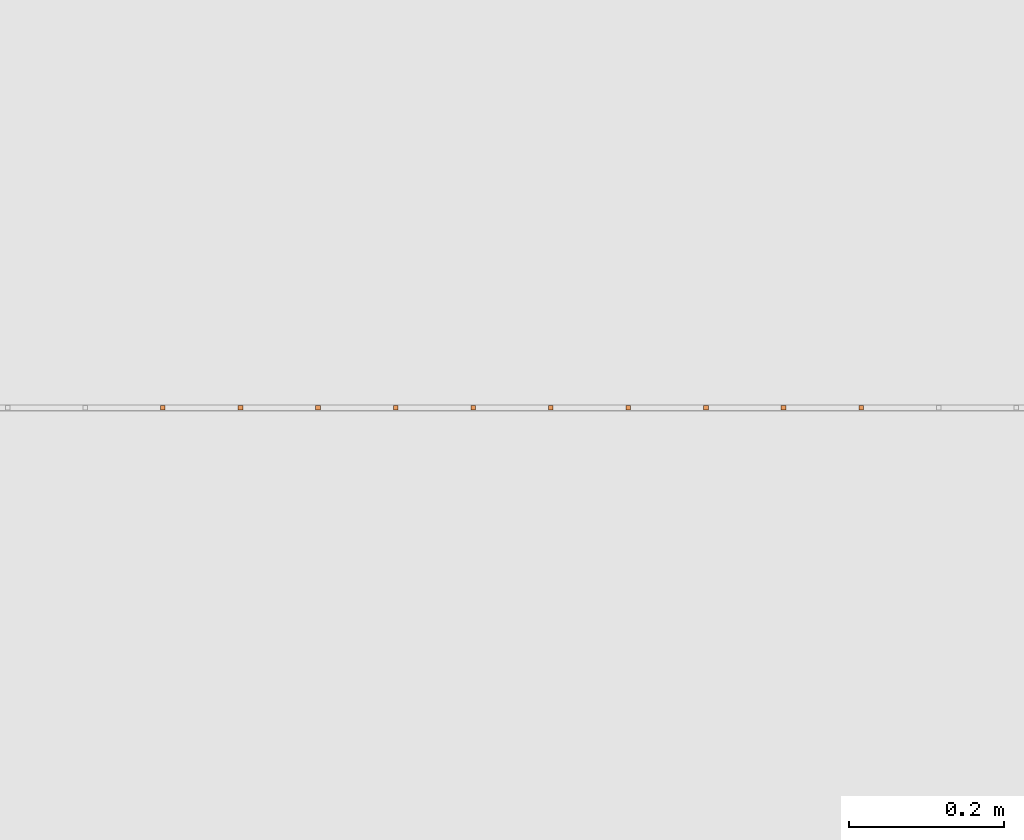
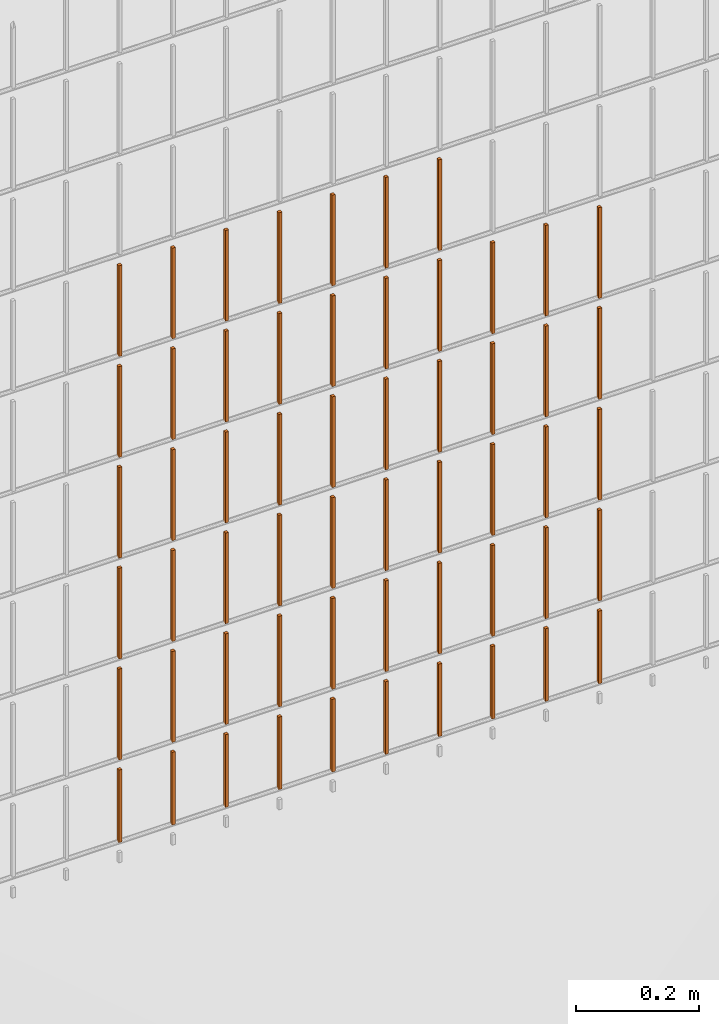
# One storey, part 249 of 1809: 57 proxies, 1 element without a shape of its own.
"""IFC2X3 building model written with IfcOpenShell, lengths in millimetres."""

from ifc_helpers import new_model, entity, si_unit, converted_unit, derived_unit, money_unit, direction, frame, origin_with_axes, place, context, subcontext, project, spatial, faceted_brep, source, transform, mapped, material, type_object, element, aggregate, save


model = new_model("IFC2X3")

# Units and contexts
model_context = context("Model", 3, precision=0.01, world=origin_with_axes(), true_north=direction((0.0, 1.0)))
body_context = subcontext(model_context, "Body", "Model", "MODEL_VIEW")
ifc_project = project(units=[si_unit("LENGTHUNIT", "METRE", prefix="MILLI"), si_unit("AREAUNIT", "SQUARE_METRE"), si_unit("VOLUMEUNIT", "CUBIC_METRE"), converted_unit("PLANEANGLEUNIT", "DEGREE", entity("IfcPlaneAngleMeasure", 0.0174532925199), si_unit("PLANEANGLEUNIT", "RADIAN"), dimensions=[0, 0, 0, 0, 0, 0, 0]), si_unit("SOLIDANGLEUNIT", "STERADIAN"), money_unit("EUR"), converted_unit("TIMEUNIT", "Year", entity("IfcTimeMeasure", 31556926.0), si_unit("TIMEUNIT", "SECOND"), dimensions=[0, 0, 1, 0, 0, 0, 0]), si_unit("MASSUNIT", "GRAM", prefix="KILO"), si_unit("THERMODYNAMICTEMPERATUREUNIT", "DEGREE_CELSIUS"), si_unit("LUMINOUSINTENSITYUNIT", "LUMEN"), si_unit("ENERGYUNIT", "JOULE", prefix="MEGA"), derived_unit("THERMALCONDUCTANCEUNIT", [(si_unit("POWERUNIT", "WATT"), 1), (si_unit("LENGTHUNIT", "METRE"), -1), (si_unit("THERMODYNAMICTEMPERATUREUNIT", "KELVIN"), -1)]), derived_unit("SPECIFICHEATCAPACITYUNIT", [(si_unit("ENERGYUNIT", "JOULE"), 1), (si_unit("MASSUNIT", "GRAM", prefix="KILO"), -1), (si_unit("THERMODYNAMICTEMPERATUREUNIT", "KELVIN"), -1)]), derived_unit("MASSDENSITYUNIT", [(si_unit("MASSUNIT", "GRAM", prefix="KILO"), 1), (si_unit("VOLUMEUNIT", "CUBIC_METRE"), -1)])], contexts=[model_context])

# Site, building, storey
site_placement = place(None, origin_with_axes())
site = spatial("IfcSite", under=ifc_project, at=site_placement, Name="Politse- ja Piirivalveameti ning Päästeameti ühishoone", CompositionType="ELEMENT")
building_placement = place(site_placement, origin_with_axes())
building = spatial("IfcBuilding", under=site, at=building_placement, Name="Politse- ja Piirivalveameti ning Päästeameti ühishoone", CompositionType="ELEMENT")
storey_placement = place(building_placement, origin_with_axes())
storey = spatial("IfcBuildingStorey", under=building, at=storey_placement, Name="Esimene korrus", CompositionType="ELEMENT", Elevation=0.0)

# Proxies
building_element_proxy_type_1 = type_object("IfcBuildingElementProxyType", Name="Railing Type", PredefinedType="NOTDEFINED")
proxy_1_placement = place(storey_placement, frame((-16775.8601056, 25156.7555964, 0.0), z_axis=(0.0, 0.0, 1.0), x_axis=(1.0, 0.0, 0.0)))
proxy_1 = element("IfcBuildingElementProxy", 1, at=proxy_1_placement, inside=storey, type_object=building_element_proxy_type_1, Name="KENNELI PIIRE")
ifc_material = material(Name="Teras - Konstruktsioon")
building_element_proxy_type_2 = type_object("IfcBuildingElementProxyType", Name="IfcBuildingElementProxy", PredefinedType="NOTDEFINED")
shared_shape_1 = source(origin_with_axes(), body_context, "Body", "Brep", [
    faceted_brep([(3.0, 3.0, 0.0), (-3.0, 3.0, 0.0), (-3.0, 3.0, 180.000012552), (3.0, 3.0, 180.000012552), (3.0, -3.0, 0.0), (-3.0, -3.0, 0.0), (-3.0, -3.0, 180.000012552), (3.0, -3.0, 180.000012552)], [[[0, 1, 2, 3]], [[0, 4, 5, 1]], [[1, 5, 6, 2]], [[3, 2, 6, 7]], [[4, 0, 3, 7]], [[5, 4, 7, 6]]]),
])
proxy_2_placement = place(proxy_1_placement, frame((-2082.26655065, -16068.8402798, 403.999987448), z_axis=(0.0, 0.0, 1.0), x_axis=(1.0, 0.0, 0.0)))
proxy_2 = element("IfcBuildingElementProxy", 2, at=proxy_2_placement, type_object=building_element_proxy_type_2, material=ifc_material, Name="BALUSTER - 001", context=body_context, shape_type="MappedRepresentation", body=[
    mapped(shared_shape_1, transform((0.0, 0.0, 0.0), x_axis=(0.0, -1.0, 0.0), y_axis=(1.0, 0.0, 0.0), z_axis=(0.0, 0.0, 1.0))),
])
proxy_3_placement = place(proxy_1_placement, frame((-1982.26655065, -16068.8402798, 403.999987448), z_axis=(0.0, 0.0, 1.0), x_axis=(1.0, 0.0, 0.0)))
proxy_3 = element("IfcBuildingElementProxy", 3, at=proxy_3_placement, type_object=building_element_proxy_type_2, material=ifc_material, Name="BALUSTER - 001", context=body_context, shape_type="MappedRepresentation", body=[
    mapped(shared_shape_1, transform((0.0, 0.0, 0.0), x_axis=(0.0, -1.0, 0.0), y_axis=(1.0, 0.0, 0.0), z_axis=(0.0, 0.0, 1.0))),
])
proxy_4_placement = place(proxy_1_placement, frame((-1882.26655065, -16068.8402798, 403.999987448), z_axis=(0.0, 0.0, 1.0), x_axis=(1.0, 0.0, 0.0)))
proxy_4 = element("IfcBuildingElementProxy", 4, at=proxy_4_placement, type_object=building_element_proxy_type_2, material=ifc_material, Name="BALUSTER - 001", context=body_context, shape_type="MappedRepresentation", body=[
    mapped(shared_shape_1, transform((0.0, 0.0, 0.0), x_axis=(0.0, -1.0, 0.0), y_axis=(1.0, 0.0, 0.0), z_axis=(0.0, 0.0, 1.0))),
])
proxy_5_placement = place(proxy_1_placement, frame((-1782.26655065, -16068.8402798, 403.999987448), z_axis=(0.0, 0.0, 1.0), x_axis=(1.0, 0.0, 0.0)))
proxy_5 = element("IfcBuildingElementProxy", 5, at=proxy_5_placement, type_object=building_element_proxy_type_2, material=ifc_material, Name="BALUSTER - 001", context=body_context, shape_type="MappedRepresentation", body=[
    mapped(shared_shape_1, transform((0.0, 0.0, 0.0), x_axis=(0.0, -1.0, 0.0), y_axis=(1.0, 0.0, 0.0), z_axis=(0.0, 0.0, 1.0))),
])
proxy_6_placement = place(proxy_1_placement, frame((-1682.26655065, -16068.8402798, 403.999987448), z_axis=(0.0, 0.0, 1.0), x_axis=(1.0, 0.0, 0.0)))
proxy_6 = element("IfcBuildingElementProxy", 6, at=proxy_6_placement, type_object=building_element_proxy_type_2, material=ifc_material, Name="BALUSTER - 001", context=body_context, shape_type="MappedRepresentation", body=[
    mapped(shared_shape_1, transform((0.0, 0.0, 0.0), x_axis=(0.0, -1.0, 0.0), y_axis=(1.0, 0.0, 0.0), z_axis=(0.0, 0.0, 1.0))),
])
proxy_7_placement = place(proxy_1_placement, frame((-1582.26655065, -16068.8402798, 403.999987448), z_axis=(0.0, 0.0, 1.0), x_axis=(1.0, 0.0, 0.0)))
proxy_7 = element("IfcBuildingElementProxy", 7, at=proxy_7_placement, type_object=building_element_proxy_type_2, material=ifc_material, Name="BALUSTER - 001", context=body_context, shape_type="MappedRepresentation", body=[
    mapped(shared_shape_1, transform((0.0, 0.0, 0.0), x_axis=(0.0, -1.0, 0.0), y_axis=(1.0, 0.0, 0.0), z_axis=(0.0, 0.0, 1.0))),
])
proxy_8_placement = place(proxy_1_placement, frame((-1482.26655065, -16068.8402798, 403.999987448), z_axis=(0.0, 0.0, 1.0), x_axis=(1.0, 0.0, 0.0)))
proxy_8 = element("IfcBuildingElementProxy", 8, at=proxy_8_placement, type_object=building_element_proxy_type_2, material=ifc_material, Name="BALUSTER - 001", context=body_context, shape_type="MappedRepresentation", body=[
    mapped(shared_shape_1, transform((0.0, 0.0, 0.0), x_axis=(0.0, -1.0, 0.0), y_axis=(1.0, 0.0, 0.0), z_axis=(0.0, 0.0, 1.0))),
])
proxy_9_placement = place(proxy_1_placement, frame((-1382.26655065, -16068.8402798, 403.999987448), z_axis=(0.0, 0.0, 1.0), x_axis=(1.0, 0.0, 0.0)))
proxy_9 = element("IfcBuildingElementProxy", 9, at=proxy_9_placement, type_object=building_element_proxy_type_2, material=ifc_material, Name="BALUSTER - 001", context=body_context, shape_type="MappedRepresentation", body=[
    mapped(shared_shape_1, transform((0.0, 0.0, 0.0), x_axis=(0.0, -1.0, 0.0), y_axis=(1.0, 0.0, 0.0), z_axis=(0.0, 0.0, 1.0))),
])
proxy_10_placement = place(proxy_1_placement, frame((-1282.26655065, -16068.8402798, 403.999987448), z_axis=(0.0, 0.0, 1.0), x_axis=(1.0, 0.0, 0.0)))
proxy_10 = element("IfcBuildingElementProxy", 10, at=proxy_10_placement, type_object=building_element_proxy_type_2, material=ifc_material, Name="BALUSTER - 001", context=body_context, shape_type="MappedRepresentation", body=[
    mapped(shared_shape_1, transform((0.0, 0.0, 0.0), x_axis=(0.0, -1.0, 0.0), y_axis=(1.0, 0.0, 0.0), z_axis=(0.0, 0.0, 1.0))),
])
proxy_11_placement = place(proxy_1_placement, frame((-1182.26655065, -16068.8402798, 403.999987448), z_axis=(0.0, 0.0, 1.0), x_axis=(1.0, 0.0, 0.0)))
proxy_11 = element("IfcBuildingElementProxy", 11, at=proxy_11_placement, type_object=building_element_proxy_type_2, material=ifc_material, Name="BALUSTER - 001", context=body_context, shape_type="MappedRepresentation", body=[
    mapped(shared_shape_1, transform((0.0, 0.0, 0.0), x_axis=(0.0, -1.0, 0.0), y_axis=(1.0, 0.0, 0.0), z_axis=(0.0, 0.0, 1.0))),
])
proxy_12_placement = place(proxy_1_placement, frame((-2082.26655065, -16068.8402798, 803.999987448), z_axis=(0.0, 0.0, 1.0), x_axis=(1.0, 0.0, 0.0)))
proxy_12 = element("IfcBuildingElementProxy", 12, at=proxy_12_placement, type_object=building_element_proxy_type_2, material=ifc_material, Name="BALUSTER - 001", context=body_context, shape_type="MappedRepresentation", body=[
    mapped(shared_shape_1, transform((0.0, 0.0, 0.0), x_axis=(0.0, -1.0, 0.0), y_axis=(1.0, 0.0, 0.0), z_axis=(0.0, 0.0, 1.0))),
])
proxy_13_placement = place(proxy_1_placement, frame((-1982.26655065, -16068.8402798, 803.999987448), z_axis=(0.0, 0.0, 1.0), x_axis=(1.0, 0.0, 0.0)))
proxy_13 = element("IfcBuildingElementProxy", 13, at=proxy_13_placement, type_object=building_element_proxy_type_2, material=ifc_material, Name="BALUSTER - 001", context=body_context, shape_type="MappedRepresentation", body=[
    mapped(shared_shape_1, transform((0.0, 0.0, 0.0), x_axis=(0.0, -1.0, 0.0), y_axis=(1.0, 0.0, 0.0), z_axis=(0.0, 0.0, 1.0))),
])
proxy_14_placement = place(proxy_1_placement, frame((-1882.26655065, -16068.8402798, 803.999987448), z_axis=(0.0, 0.0, 1.0), x_axis=(1.0, 0.0, 0.0)))
proxy_14 = element("IfcBuildingElementProxy", 14, at=proxy_14_placement, type_object=building_element_proxy_type_2, material=ifc_material, Name="BALUSTER - 001", context=body_context, shape_type="MappedRepresentation", body=[
    mapped(shared_shape_1, transform((0.0, 0.0, 0.0), x_axis=(0.0, -1.0, 0.0), y_axis=(1.0, 0.0, 0.0), z_axis=(0.0, 0.0, 1.0))),
])
proxy_15_placement = place(proxy_1_placement, frame((-1782.26655065, -16068.8402798, 803.999987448), z_axis=(0.0, 0.0, 1.0), x_axis=(1.0, 0.0, 0.0)))
proxy_15 = element("IfcBuildingElementProxy", 15, at=proxy_15_placement, type_object=building_element_proxy_type_2, material=ifc_material, Name="BALUSTER - 001", context=body_context, shape_type="MappedRepresentation", body=[
    mapped(shared_shape_1, transform((0.0, 0.0, 0.0), x_axis=(0.0, -1.0, 0.0), y_axis=(1.0, 0.0, 0.0), z_axis=(0.0, 0.0, 1.0))),
])
proxy_16_placement = place(proxy_1_placement, frame((-1682.26655065, -16068.8402798, 803.999987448), z_axis=(0.0, 0.0, 1.0), x_axis=(1.0, 0.0, 0.0)))
proxy_16 = element("IfcBuildingElementProxy", 16, at=proxy_16_placement, type_object=building_element_proxy_type_2, material=ifc_material, Name="BALUSTER - 001", context=body_context, shape_type="MappedRepresentation", body=[
    mapped(shared_shape_1, transform((0.0, 0.0, 0.0), x_axis=(0.0, -1.0, 0.0), y_axis=(1.0, 0.0, 0.0), z_axis=(0.0, 0.0, 1.0))),
])
proxy_17_placement = place(proxy_1_placement, frame((-1582.26655065, -16068.8402798, 803.999987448), z_axis=(0.0, 0.0, 1.0), x_axis=(1.0, 0.0, 0.0)))
proxy_17 = element("IfcBuildingElementProxy", 17, at=proxy_17_placement, type_object=building_element_proxy_type_2, material=ifc_material, Name="BALUSTER - 001", context=body_context, shape_type="MappedRepresentation", body=[
    mapped(shared_shape_1, transform((0.0, 0.0, 0.0), x_axis=(0.0, -1.0, 0.0), y_axis=(1.0, 0.0, 0.0), z_axis=(0.0, 0.0, 1.0))),
])
proxy_18_placement = place(proxy_1_placement, frame((-1482.26655065, -16068.8402798, 803.999987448), z_axis=(0.0, 0.0, 1.0), x_axis=(1.0, 0.0, 0.0)))
proxy_18 = element("IfcBuildingElementProxy", 18, at=proxy_18_placement, type_object=building_element_proxy_type_2, material=ifc_material, Name="BALUSTER - 001", context=body_context, shape_type="MappedRepresentation", body=[
    mapped(shared_shape_1, transform((0.0, 0.0, 0.0), x_axis=(0.0, -1.0, 0.0), y_axis=(1.0, 0.0, 0.0), z_axis=(0.0, 0.0, 1.0))),
])
proxy_19_placement = place(proxy_1_placement, frame((-1382.26655065, -16068.8402798, 803.999987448), z_axis=(0.0, 0.0, 1.0), x_axis=(1.0, 0.0, 0.0)))
proxy_19 = element("IfcBuildingElementProxy", 19, at=proxy_19_placement, type_object=building_element_proxy_type_2, material=ifc_material, Name="BALUSTER - 001", context=body_context, shape_type="MappedRepresentation", body=[
    mapped(shared_shape_1, transform((0.0, 0.0, 0.0), x_axis=(0.0, -1.0, 0.0), y_axis=(1.0, 0.0, 0.0), z_axis=(0.0, 0.0, 1.0))),
])
proxy_20_placement = place(proxy_1_placement, frame((-1282.26655065, -16068.8402798, 803.999987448), z_axis=(0.0, 0.0, 1.0), x_axis=(1.0, 0.0, 0.0)))
proxy_20 = element("IfcBuildingElementProxy", 20, at=proxy_20_placement, type_object=building_element_proxy_type_2, material=ifc_material, Name="BALUSTER - 001", context=body_context, shape_type="MappedRepresentation", body=[
    mapped(shared_shape_1, transform((0.0, 0.0, 0.0), x_axis=(0.0, -1.0, 0.0), y_axis=(1.0, 0.0, 0.0), z_axis=(0.0, 0.0, 1.0))),
])
proxy_21_placement = place(proxy_1_placement, frame((-1182.26655065, -16068.8402798, 803.999987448), z_axis=(0.0, 0.0, 1.0), x_axis=(1.0, 0.0, 0.0)))
proxy_21 = element("IfcBuildingElementProxy", 21, at=proxy_21_placement, type_object=building_element_proxy_type_2, material=ifc_material, Name="BALUSTER - 001", context=body_context, shape_type="MappedRepresentation", body=[
    mapped(shared_shape_1, transform((0.0, 0.0, 0.0), x_axis=(0.0, -1.0, 0.0), y_axis=(1.0, 0.0, 0.0), z_axis=(0.0, 0.0, 1.0))),
])
proxy_22_placement = place(proxy_1_placement, frame((-2082.26655065, -16068.8402798, 1003.99998745), z_axis=(0.0, 0.0, 1.0), x_axis=(1.0, 0.0, 0.0)))
proxy_22 = element("IfcBuildingElementProxy", 22, at=proxy_22_placement, type_object=building_element_proxy_type_2, material=ifc_material, Name="BALUSTER - 001", context=body_context, shape_type="MappedRepresentation", body=[
    mapped(shared_shape_1, transform((0.0, 0.0, 0.0), x_axis=(0.0, -1.0, 0.0), y_axis=(1.0, 0.0, 0.0), z_axis=(0.0, 0.0, 1.0))),
])
proxy_23_placement = place(proxy_1_placement, frame((-1982.26655065, -16068.8402798, 1003.99998745), z_axis=(0.0, 0.0, 1.0), x_axis=(1.0, 0.0, 0.0)))
proxy_23 = element("IfcBuildingElementProxy", 23, at=proxy_23_placement, type_object=building_element_proxy_type_2, material=ifc_material, Name="BALUSTER - 001", context=body_context, shape_type="MappedRepresentation", body=[
    mapped(shared_shape_1, transform((0.0, 0.0, 0.0), x_axis=(0.0, -1.0, 0.0), y_axis=(1.0, 0.0, 0.0), z_axis=(0.0, 0.0, 1.0))),
])
proxy_24_placement = place(proxy_1_placement, frame((-1882.26655065, -16068.8402798, 1003.99998745), z_axis=(0.0, 0.0, 1.0), x_axis=(1.0, 0.0, 0.0)))
proxy_24 = element("IfcBuildingElementProxy", 24, at=proxy_24_placement, type_object=building_element_proxy_type_2, material=ifc_material, Name="BALUSTER - 001", context=body_context, shape_type="MappedRepresentation", body=[
    mapped(shared_shape_1, transform((0.0, 0.0, 0.0), x_axis=(0.0, -1.0, 0.0), y_axis=(1.0, 0.0, 0.0), z_axis=(0.0, 0.0, 1.0))),
])
proxy_25_placement = place(proxy_1_placement, frame((-1782.26655065, -16068.8402798, 1003.99998745), z_axis=(0.0, 0.0, 1.0), x_axis=(1.0, 0.0, 0.0)))
proxy_25 = element("IfcBuildingElementProxy", 25, at=proxy_25_placement, type_object=building_element_proxy_type_2, material=ifc_material, Name="BALUSTER - 001", context=body_context, shape_type="MappedRepresentation", body=[
    mapped(shared_shape_1, transform((0.0, 0.0, 0.0), x_axis=(0.0, -1.0, 0.0), y_axis=(1.0, 0.0, 0.0), z_axis=(0.0, 0.0, 1.0))),
])
proxy_26_placement = place(proxy_1_placement, frame((-1682.26655065, -16068.8402798, 1003.99998745), z_axis=(0.0, 0.0, 1.0), x_axis=(1.0, 0.0, 0.0)))
proxy_26 = element("IfcBuildingElementProxy", 26, at=proxy_26_placement, type_object=building_element_proxy_type_2, material=ifc_material, Name="BALUSTER - 001", context=body_context, shape_type="MappedRepresentation", body=[
    mapped(shared_shape_1, transform((0.0, 0.0, 0.0), x_axis=(0.0, -1.0, 0.0), y_axis=(1.0, 0.0, 0.0), z_axis=(0.0, 0.0, 1.0))),
])
proxy_27_placement = place(proxy_1_placement, frame((-1582.26655065, -16068.8402798, 1003.99998745), z_axis=(0.0, 0.0, 1.0), x_axis=(1.0, 0.0, 0.0)))
proxy_27 = element("IfcBuildingElementProxy", 27, at=proxy_27_placement, type_object=building_element_proxy_type_2, material=ifc_material, Name="BALUSTER - 001", context=body_context, shape_type="MappedRepresentation", body=[
    mapped(shared_shape_1, transform((0.0, 0.0, 0.0), x_axis=(0.0, -1.0, 0.0), y_axis=(1.0, 0.0, 0.0), z_axis=(0.0, 0.0, 1.0))),
])
proxy_28_placement = place(proxy_1_placement, frame((-1482.26655065, -16068.8402798, 1003.99998745), z_axis=(0.0, 0.0, 1.0), x_axis=(1.0, 0.0, 0.0)))
proxy_28 = element("IfcBuildingElementProxy", 28, at=proxy_28_placement, type_object=building_element_proxy_type_2, material=ifc_material, Name="BALUSTER - 001", context=body_context, shape_type="MappedRepresentation", body=[
    mapped(shared_shape_1, transform((0.0, 0.0, 0.0), x_axis=(0.0, -1.0, 0.0), y_axis=(1.0, 0.0, 0.0), z_axis=(0.0, 0.0, 1.0))),
])
shared_shape_2 = source(origin_with_axes(), body_context, "Body", "Brep", [
    faceted_brep([(3.0, 3.0, 0.0), (-3.0, 3.0, 0.0), (-3.0, 3.0, 144.000012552), (3.0, 3.0, 144.000012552), (3.0, -3.0, 0.0), (-3.0, -3.0, 0.0), (-3.0, -3.0, 144.000012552), (3.0, -3.0, 144.000012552)], [[[0, 1, 2, 3]], [[0, 4, 5, 1]], [[1, 5, 6, 2]], [[3, 2, 6, 7]], [[4, 0, 3, 7]], [[5, 4, 7, 6]]]),
])
proxy_29_placement = place(proxy_1_placement, frame((-2082.26655065, -16068.8402798, 39.9999874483), z_axis=(0.0, 0.0, 1.0), x_axis=(1.0, 0.0, 0.0)))
proxy_29 = element("IfcBuildingElementProxy", 29, at=proxy_29_placement, type_object=building_element_proxy_type_2, material=ifc_material, Name="BALUSTER - 001", context=body_context, shape_type="MappedRepresentation", body=[
    mapped(shared_shape_2, transform((0.0, 0.0, 0.0), x_axis=(0.0, -1.0, 0.0), y_axis=(1.0, 0.0, 0.0), z_axis=(0.0, 0.0, 1.0))),
])
proxy_30_placement = place(proxy_1_placement, frame((-1982.26655065, -16068.8402798, 39.9999874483), z_axis=(0.0, 0.0, 1.0), x_axis=(1.0, 0.0, 0.0)))
proxy_30 = element("IfcBuildingElementProxy", 30, at=proxy_30_placement, type_object=building_element_proxy_type_2, material=ifc_material, Name="BALUSTER - 001", context=body_context, shape_type="MappedRepresentation", body=[
    mapped(shared_shape_2, transform((0.0, 0.0, 0.0), x_axis=(0.0, -1.0, 0.0), y_axis=(1.0, 0.0, 0.0), z_axis=(0.0, 0.0, 1.0))),
])
proxy_31_placement = place(proxy_1_placement, frame((-1882.26655065, -16068.8402798, 39.9999874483), z_axis=(0.0, 0.0, 1.0), x_axis=(1.0, 0.0, 0.0)))
proxy_31 = element("IfcBuildingElementProxy", 31, at=proxy_31_placement, type_object=building_element_proxy_type_2, material=ifc_material, Name="BALUSTER - 001", context=body_context, shape_type="MappedRepresentation", body=[
    mapped(shared_shape_2, transform((0.0, 0.0, 0.0), x_axis=(0.0, -1.0, 0.0), y_axis=(1.0, 0.0, 0.0), z_axis=(0.0, 0.0, 1.0))),
])
proxy_32_placement = place(proxy_1_placement, frame((-1782.26655065, -16068.8402798, 39.9999874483), z_axis=(0.0, 0.0, 1.0), x_axis=(1.0, 0.0, 0.0)))
proxy_32 = element("IfcBuildingElementProxy", 32, at=proxy_32_placement, type_object=building_element_proxy_type_2, material=ifc_material, Name="BALUSTER - 001", context=body_context, shape_type="MappedRepresentation", body=[
    mapped(shared_shape_2, transform((0.0, 0.0, 0.0), x_axis=(0.0, -1.0, 0.0), y_axis=(1.0, 0.0, 0.0), z_axis=(0.0, 0.0, 1.0))),
])
proxy_33_placement = place(proxy_1_placement, frame((-1682.26655065, -16068.8402798, 39.9999874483), z_axis=(0.0, 0.0, 1.0), x_axis=(1.0, 0.0, 0.0)))
proxy_33 = element("IfcBuildingElementProxy", 33, at=proxy_33_placement, type_object=building_element_proxy_type_2, material=ifc_material, Name="BALUSTER - 001", context=body_context, shape_type="MappedRepresentation", body=[
    mapped(shared_shape_2, transform((0.0, 0.0, 0.0), x_axis=(0.0, -1.0, 0.0), y_axis=(1.0, 0.0, 0.0), z_axis=(0.0, 0.0, 1.0))),
])
proxy_34_placement = place(proxy_1_placement, frame((-1582.26655065, -16068.8402798, 39.9999874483), z_axis=(0.0, 0.0, 1.0), x_axis=(1.0, 0.0, 0.0)))
proxy_34 = element("IfcBuildingElementProxy", 34, at=proxy_34_placement, type_object=building_element_proxy_type_2, material=ifc_material, Name="BALUSTER - 001", context=body_context, shape_type="MappedRepresentation", body=[
    mapped(shared_shape_2, transform((0.0, 0.0, 0.0), x_axis=(0.0, -1.0, 0.0), y_axis=(1.0, 0.0, 0.0), z_axis=(0.0, 0.0, 1.0))),
])
proxy_35_placement = place(proxy_1_placement, frame((-1482.26655065, -16068.8402798, 39.9999874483), z_axis=(0.0, 0.0, 1.0), x_axis=(1.0, 0.0, 0.0)))
proxy_35 = element("IfcBuildingElementProxy", 35, at=proxy_35_placement, type_object=building_element_proxy_type_2, material=ifc_material, Name="BALUSTER - 001", context=body_context, shape_type="MappedRepresentation", body=[
    mapped(shared_shape_2, transform((0.0, 0.0, 0.0), x_axis=(0.0, -1.0, 0.0), y_axis=(1.0, 0.0, 0.0), z_axis=(0.0, 0.0, 1.0))),
])
proxy_36_placement = place(proxy_1_placement, frame((-1382.26655065, -16068.8402798, 39.9999874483), z_axis=(0.0, 0.0, 1.0), x_axis=(1.0, 0.0, 0.0)))
proxy_36 = element("IfcBuildingElementProxy", 36, at=proxy_36_placement, type_object=building_element_proxy_type_2, material=ifc_material, Name="BALUSTER - 001", context=body_context, shape_type="MappedRepresentation", body=[
    mapped(shared_shape_2, transform((0.0, 0.0, 0.0), x_axis=(0.0, -1.0, 0.0), y_axis=(1.0, 0.0, 0.0), z_axis=(0.0, 0.0, 1.0))),
])
proxy_37_placement = place(proxy_1_placement, frame((-1282.26655065, -16068.8402798, 39.9999874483), z_axis=(0.0, 0.0, 1.0), x_axis=(1.0, 0.0, 0.0)))
proxy_37 = element("IfcBuildingElementProxy", 37, at=proxy_37_placement, type_object=building_element_proxy_type_2, material=ifc_material, Name="BALUSTER - 001", context=body_context, shape_type="MappedRepresentation", body=[
    mapped(shared_shape_2, transform((0.0, 0.0, 0.0), x_axis=(0.0, -1.0, 0.0), y_axis=(1.0, 0.0, 0.0), z_axis=(0.0, 0.0, 1.0))),
])
proxy_38_placement = place(proxy_1_placement, frame((-1182.26655065, -16068.8402798, 39.9999874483), z_axis=(0.0, 0.0, 1.0), x_axis=(1.0, 0.0, 0.0)))
proxy_38 = element("IfcBuildingElementProxy", 38, at=proxy_38_placement, type_object=building_element_proxy_type_2, material=ifc_material, Name="BALUSTER - 001", context=body_context, shape_type="MappedRepresentation", body=[
    mapped(shared_shape_2, transform((0.0, 0.0, 0.0), x_axis=(0.0, -1.0, 0.0), y_axis=(1.0, 0.0, 0.0), z_axis=(0.0, 0.0, 1.0))),
])
shared_shape_3 = source(origin_with_axes(), body_context, "Body", "Brep", [
    faceted_brep([(3.0, 3.0, 0.0), (-3.0, 3.0, 0.0), (-3.0, 3.0, 180.000012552), (3.0, 3.0, 180.000012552), (3.0, -3.0, 0.0), (-3.0, -3.0, 0.0), (-3.0, -3.0, 180.000012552), (3.0, -3.0, 180.000012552)], [[[0, 1, 2, 3]], [[0, 4, 5, 1]], [[1, 5, 6, 2]], [[3, 2, 6, 7]], [[4, 0, 3, 7]], [[5, 4, 7, 6]]]),
])
proxy_39_placement = place(proxy_1_placement, frame((-2082.26655065, -16068.8402798, 203.999987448), z_axis=(0.0, 0.0, 1.0), x_axis=(1.0, 0.0, 0.0)))
proxy_39 = element("IfcBuildingElementProxy", 39, at=proxy_39_placement, type_object=building_element_proxy_type_2, material=ifc_material, Name="BALUSTER - 001", context=body_context, shape_type="MappedRepresentation", body=[
    mapped(shared_shape_3, transform((0.0, 0.0, 0.0), x_axis=(0.0, -1.0, 0.0), y_axis=(1.0, 0.0, 0.0), z_axis=(0.0, 0.0, 1.0))),
])
proxy_40_placement = place(proxy_1_placement, frame((-1982.26655065, -16068.8402798, 203.999987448), z_axis=(0.0, 0.0, 1.0), x_axis=(1.0, 0.0, 0.0)))
proxy_40 = element("IfcBuildingElementProxy", 40, at=proxy_40_placement, type_object=building_element_proxy_type_2, material=ifc_material, Name="BALUSTER - 001", context=body_context, shape_type="MappedRepresentation", body=[
    mapped(shared_shape_3, transform((0.0, 0.0, 0.0), x_axis=(0.0, -1.0, 0.0), y_axis=(1.0, 0.0, 0.0), z_axis=(0.0, 0.0, 1.0))),
])
proxy_41_placement = place(proxy_1_placement, frame((-1882.26655065, -16068.8402798, 203.999987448), z_axis=(0.0, 0.0, 1.0), x_axis=(1.0, 0.0, 0.0)))
proxy_41 = element("IfcBuildingElementProxy", 41, at=proxy_41_placement, type_object=building_element_proxy_type_2, material=ifc_material, Name="BALUSTER - 001", context=body_context, shape_type="MappedRepresentation", body=[
    mapped(shared_shape_3, transform((0.0, 0.0, 0.0), x_axis=(0.0, -1.0, 0.0), y_axis=(1.0, 0.0, 0.0), z_axis=(0.0, 0.0, 1.0))),
])
proxy_42_placement = place(proxy_1_placement, frame((-1782.26655065, -16068.8402798, 203.999987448), z_axis=(0.0, 0.0, 1.0), x_axis=(1.0, 0.0, 0.0)))
proxy_42 = element("IfcBuildingElementProxy", 42, at=proxy_42_placement, type_object=building_element_proxy_type_2, material=ifc_material, Name="BALUSTER - 001", context=body_context, shape_type="MappedRepresentation", body=[
    mapped(shared_shape_3, transform((0.0, 0.0, 0.0), x_axis=(0.0, -1.0, 0.0), y_axis=(1.0, 0.0, 0.0), z_axis=(0.0, 0.0, 1.0))),
])
proxy_43_placement = place(proxy_1_placement, frame((-1682.26655065, -16068.8402798, 203.999987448), z_axis=(0.0, 0.0, 1.0), x_axis=(1.0, 0.0, 0.0)))
proxy_43 = element("IfcBuildingElementProxy", 43, at=proxy_43_placement, type_object=building_element_proxy_type_2, material=ifc_material, Name="BALUSTER - 001", context=body_context, shape_type="MappedRepresentation", body=[
    mapped(shared_shape_3, transform((0.0, 0.0, 0.0), x_axis=(0.0, -1.0, 0.0), y_axis=(1.0, 0.0, 0.0), z_axis=(0.0, 0.0, 1.0))),
])
proxy_44_placement = place(proxy_1_placement, frame((-1582.26655065, -16068.8402798, 203.999987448), z_axis=(0.0, 0.0, 1.0), x_axis=(1.0, 0.0, 0.0)))
proxy_44 = element("IfcBuildingElementProxy", 44, at=proxy_44_placement, type_object=building_element_proxy_type_2, material=ifc_material, Name="BALUSTER - 001", context=body_context, shape_type="MappedRepresentation", body=[
    mapped(shared_shape_3, transform((0.0, 0.0, 0.0), x_axis=(0.0, -1.0, 0.0), y_axis=(1.0, 0.0, 0.0), z_axis=(0.0, 0.0, 1.0))),
])
proxy_45_placement = place(proxy_1_placement, frame((-1482.26655065, -16068.8402798, 203.999987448), z_axis=(0.0, 0.0, 1.0), x_axis=(1.0, 0.0, 0.0)))
proxy_45 = element("IfcBuildingElementProxy", 45, at=proxy_45_placement, type_object=building_element_proxy_type_2, material=ifc_material, Name="BALUSTER - 001", context=body_context, shape_type="MappedRepresentation", body=[
    mapped(shared_shape_3, transform((0.0, 0.0, 0.0), x_axis=(0.0, -1.0, 0.0), y_axis=(1.0, 0.0, 0.0), z_axis=(0.0, 0.0, 1.0))),
])
proxy_46_placement = place(proxy_1_placement, frame((-1382.26655065, -16068.8402798, 203.999987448), z_axis=(0.0, 0.0, 1.0), x_axis=(1.0, 0.0, 0.0)))
proxy_46 = element("IfcBuildingElementProxy", 46, at=proxy_46_placement, type_object=building_element_proxy_type_2, material=ifc_material, Name="BALUSTER - 001", context=body_context, shape_type="MappedRepresentation", body=[
    mapped(shared_shape_3, transform((0.0, 0.0, 0.0), x_axis=(0.0, -1.0, 0.0), y_axis=(1.0, 0.0, 0.0), z_axis=(0.0, 0.0, 1.0))),
])
proxy_47_placement = place(proxy_1_placement, frame((-1282.26655065, -16068.8402798, 203.999987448), z_axis=(0.0, 0.0, 1.0), x_axis=(1.0, 0.0, 0.0)))
proxy_47 = element("IfcBuildingElementProxy", 47, at=proxy_47_placement, type_object=building_element_proxy_type_2, material=ifc_material, Name="BALUSTER - 001", context=body_context, shape_type="MappedRepresentation", body=[
    mapped(shared_shape_3, transform((0.0, 0.0, 0.0), x_axis=(0.0, -1.0, 0.0), y_axis=(1.0, 0.0, 0.0), z_axis=(0.0, 0.0, 1.0))),
])
proxy_48_placement = place(proxy_1_placement, frame((-1182.26655065, -16068.8402798, 203.999987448), z_axis=(0.0, 0.0, 1.0), x_axis=(1.0, 0.0, 0.0)))
proxy_48 = element("IfcBuildingElementProxy", 48, at=proxy_48_placement, type_object=building_element_proxy_type_2, material=ifc_material, Name="BALUSTER - 001", context=body_context, shape_type="MappedRepresentation", body=[
    mapped(shared_shape_3, transform((0.0, 0.0, 0.0), x_axis=(0.0, -1.0, 0.0), y_axis=(1.0, 0.0, 0.0), z_axis=(0.0, 0.0, 1.0))),
])
shared_shape_4 = source(origin_with_axes(), body_context, "Body", "Brep", [
    faceted_brep([(3.0, 3.0, 0.0), (-3.0, 3.0, 0.0), (-3.0, 3.0, 180.000012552), (3.0, 3.0, 180.000012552), (3.0, -3.0, 0.0), (-3.0, -3.0, 0.0), (-3.0, -3.0, 180.000012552), (3.0, -3.0, 180.000012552)], [[[0, 1, 2, 3]], [[0, 4, 5, 1]], [[1, 5, 6, 2]], [[3, 2, 6, 7]], [[4, 0, 3, 7]], [[5, 4, 7, 6]]]),
])
proxy_49_placement = place(proxy_1_placement, frame((-2082.26655065, -16068.8402798, 603.999987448), z_axis=(0.0, 0.0, 1.0), x_axis=(1.0, 0.0, 0.0)))
proxy_49 = element("IfcBuildingElementProxy", 49, at=proxy_49_placement, type_object=building_element_proxy_type_2, material=ifc_material, Name="BALUSTER - 001", context=body_context, shape_type="MappedRepresentation", body=[
    mapped(shared_shape_4, transform((0.0, 0.0, 0.0), x_axis=(0.0, -1.0, 0.0), y_axis=(1.0, 0.0, 0.0), z_axis=(0.0, 0.0, 1.0))),
])
proxy_50_placement = place(proxy_1_placement, frame((-1982.26655065, -16068.8402798, 603.999987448), z_axis=(0.0, 0.0, 1.0), x_axis=(1.0, 0.0, 0.0)))
proxy_50 = element("IfcBuildingElementProxy", 50, at=proxy_50_placement, type_object=building_element_proxy_type_2, material=ifc_material, Name="BALUSTER - 001", context=body_context, shape_type="MappedRepresentation", body=[
    mapped(shared_shape_4, transform((0.0, 0.0, 0.0), x_axis=(0.0, -1.0, 0.0), y_axis=(1.0, 0.0, 0.0), z_axis=(0.0, 0.0, 1.0))),
])
proxy_51_placement = place(proxy_1_placement, frame((-1882.26655065, -16068.8402798, 603.999987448), z_axis=(0.0, 0.0, 1.0), x_axis=(1.0, 0.0, 0.0)))
proxy_51 = element("IfcBuildingElementProxy", 51, at=proxy_51_placement, type_object=building_element_proxy_type_2, material=ifc_material, Name="BALUSTER - 001", context=body_context, shape_type="MappedRepresentation", body=[
    mapped(shared_shape_4, transform((0.0, 0.0, 0.0), x_axis=(0.0, -1.0, 0.0), y_axis=(1.0, 0.0, 0.0), z_axis=(0.0, 0.0, 1.0))),
])
proxy_52_placement = place(proxy_1_placement, frame((-1782.26655065, -16068.8402798, 603.999987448), z_axis=(0.0, 0.0, 1.0), x_axis=(1.0, 0.0, 0.0)))
proxy_52 = element("IfcBuildingElementProxy", 52, at=proxy_52_placement, type_object=building_element_proxy_type_2, material=ifc_material, Name="BALUSTER - 001", context=body_context, shape_type="MappedRepresentation", body=[
    mapped(shared_shape_4, transform((0.0, 0.0, 0.0), x_axis=(0.0, -1.0, 0.0), y_axis=(1.0, 0.0, 0.0), z_axis=(0.0, 0.0, 1.0))),
])
proxy_53_placement = place(proxy_1_placement, frame((-1682.26655065, -16068.8402798, 603.999987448), z_axis=(0.0, 0.0, 1.0), x_axis=(1.0, 0.0, 0.0)))
proxy_53 = element("IfcBuildingElementProxy", 53, at=proxy_53_placement, type_object=building_element_proxy_type_2, material=ifc_material, Name="BALUSTER - 001", context=body_context, shape_type="MappedRepresentation", body=[
    mapped(shared_shape_4, transform((0.0, 0.0, 0.0), x_axis=(0.0, -1.0, 0.0), y_axis=(1.0, 0.0, 0.0), z_axis=(0.0, 0.0, 1.0))),
])
proxy_54_placement = place(proxy_1_placement, frame((-1582.26655065, -16068.8402798, 603.999987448), z_axis=(0.0, 0.0, 1.0), x_axis=(1.0, 0.0, 0.0)))
proxy_54 = element("IfcBuildingElementProxy", 54, at=proxy_54_placement, type_object=building_element_proxy_type_2, material=ifc_material, Name="BALUSTER - 001", context=body_context, shape_type="MappedRepresentation", body=[
    mapped(shared_shape_4, transform((0.0, 0.0, 0.0), x_axis=(0.0, -1.0, 0.0), y_axis=(1.0, 0.0, 0.0), z_axis=(0.0, 0.0, 1.0))),
])
proxy_55_placement = place(proxy_1_placement, frame((-1382.26655065, -16068.8402798, 603.999987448), z_axis=(0.0, 0.0, 1.0), x_axis=(1.0, 0.0, 0.0)))
proxy_55 = element("IfcBuildingElementProxy", 55, at=proxy_55_placement, type_object=building_element_proxy_type_2, material=ifc_material, Name="BALUSTER - 001", context=body_context, shape_type="MappedRepresentation", body=[
    mapped(shared_shape_4, transform((0.0, 0.0, 0.0), x_axis=(0.0, -1.0, 0.0), y_axis=(1.0, 0.0, 0.0), z_axis=(0.0, 0.0, 1.0))),
])
proxy_56_placement = place(proxy_1_placement, frame((-1182.26655065, -16068.8402798, 603.999987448), z_axis=(0.0, 0.0, 1.0), x_axis=(1.0, 0.0, 0.0)))
proxy_56 = element("IfcBuildingElementProxy", 56, at=proxy_56_placement, type_object=building_element_proxy_type_2, material=ifc_material, Name="BALUSTER - 001", context=body_context, shape_type="MappedRepresentation", body=[
    mapped(shared_shape_4, transform((0.0, 0.0, 0.0), x_axis=(0.0, -1.0, 0.0), y_axis=(1.0, 0.0, 0.0), z_axis=(0.0, 0.0, 1.0))),
])
shared_shape_5 = source(origin_with_axes(), body_context, "Body", "Brep", [
    faceted_brep([(3.0, 3.0, 0.0), (-3.0, 3.0, 0.0), (-3.0, 3.0, 180.000012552), (3.0, 3.0, 180.000012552), (3.0, -3.0, 0.0), (-3.0, -3.0, 0.0), (-3.0, -3.0, 180.000012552), (3.0, -3.0, 180.000012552)], [[[0, 1, 2, 3]], [[0, 4, 5, 1]], [[1, 5, 6, 2]], [[3, 2, 6, 7]], [[4, 0, 3, 7]], [[5, 4, 7, 6]]]),
])
proxy_57_placement = place(proxy_1_placement, frame((-1482.26655065, -16068.8402798, 603.999987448), z_axis=(0.0, 0.0, 1.0), x_axis=(1.0, 0.0, 0.0)))
proxy_57 = element("IfcBuildingElementProxy", 57, at=proxy_57_placement, type_object=building_element_proxy_type_2, material=ifc_material, Name="BALUSTER - 001", context=body_context, shape_type="MappedRepresentation", body=[
    mapped(shared_shape_5, transform((0.0, 0.0, 0.0), x_axis=(0.0, -1.0, 0.0), y_axis=(1.0, 0.0, 0.0), z_axis=(0.0, 0.0, 1.0))),
])
shared_shape_6 = source(origin_with_axes(), body_context, "Body", "Brep", [
    faceted_brep([(3.0, 3.0, 0.0), (-3.0, 3.0, 0.0), (-3.0, 2.99999999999, 180.000012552), (3.0, 2.99999999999, 180.000012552), (3.0, -3.0, 0.0), (-3.0, -3.0, 0.0), (-3.0, -3.00000000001, 180.000012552), (3.0, -3.00000000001, 180.000012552)], [[[0, 1, 2, 3]], [[0, 4, 5, 1]], [[1, 5, 6, 2]], [[3, 2, 6, 7]], [[4, 0, 3, 7]], [[5, 4, 7, 6]]]),
])
proxy_58_placement = place(proxy_1_placement, frame((-1282.26655065, -16068.8402798, 603.999987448), z_axis=(0.0, 0.0, 1.0), x_axis=(1.0, 0.0, 0.0)))
proxy_58 = element("IfcBuildingElementProxy", 58, at=proxy_58_placement, type_object=building_element_proxy_type_2, material=ifc_material, Name="BALUSTER - 001", context=body_context, shape_type="MappedRepresentation", body=[
    mapped(shared_shape_6, transform((0.0, 0.0, 0.0), x_axis=(0.0, -1.0, 0.0), y_axis=(1.0, 0.0, 0.0), z_axis=(0.0, 0.0, 1.0))),
])
aggregate(proxy_1, [proxy_29, proxy_30, proxy_31, proxy_32, proxy_33, proxy_34, proxy_35, proxy_36, proxy_37, proxy_38, proxy_39, proxy_40, proxy_41, proxy_42, proxy_43, proxy_44, proxy_45, proxy_46, proxy_47, proxy_48, proxy_2, proxy_3, proxy_4, proxy_5, proxy_6, proxy_7, proxy_8, proxy_9, proxy_10, proxy_11, proxy_49, proxy_50, proxy_51, proxy_52, proxy_53, proxy_54, proxy_57, proxy_55, proxy_58, proxy_56, proxy_12, proxy_13, proxy_14, proxy_15, proxy_16, proxy_17, proxy_18, proxy_19, proxy_20, proxy_21, proxy_22, proxy_23, proxy_24, proxy_25, proxy_26, proxy_27, proxy_28])

save(model, "model.ifc")
